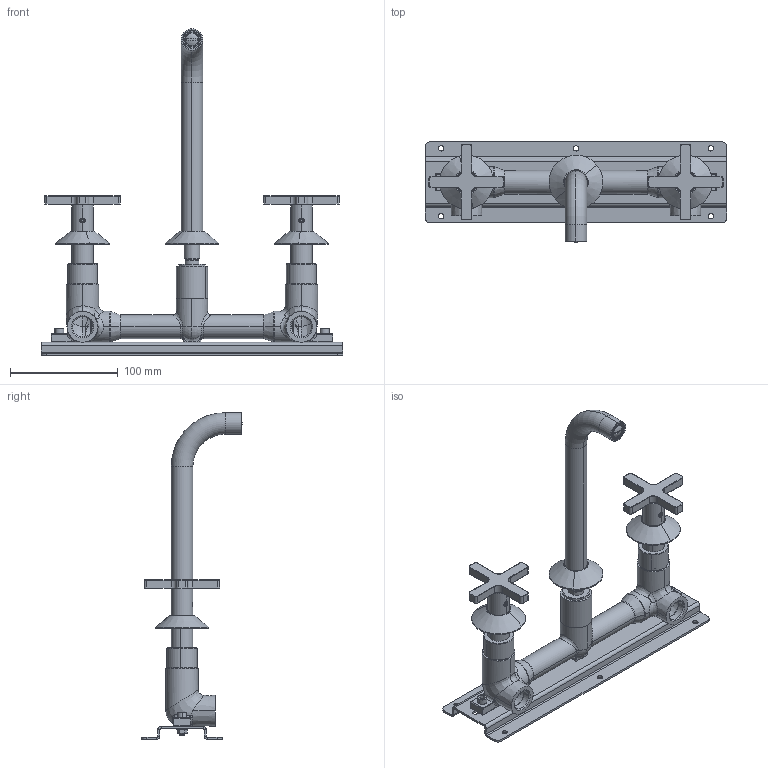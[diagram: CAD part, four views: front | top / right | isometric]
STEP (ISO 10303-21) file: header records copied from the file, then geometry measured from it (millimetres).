
FILE_DESCRIPTION (( 'STEP AP203' ), '1' );
FILE_NAME ('HGN57.STEP', '2024-03-26T08:33:13', ( '' ), ( '' ), 'SwSTEP 2.0', 'SolidWorks 2023', '' );
FILE_SCHEMA (( 'CONFIG_CONTROL_DESIGN' ));
Length unit declared in the file: millimetre
Products named in the file (26): C12.00.0020; C34.00.0018; C11.14.0003; C34.00.0017; C24.1896.00.0; ISN56; C18.27.0000; C24.1955.00.1; C21.2337.00.0; C11.14.0008; C24.2338.00.0; C24.2050.00.1; C11.12.0020; C11.11.0009; C13.00.0043; C12.00.0008; C12.00.0051; C11.15.0006; C24.1931.00.0; C11.10.0018; HGN57; AS887_00; C21.1428.00.0; C24.1894.00.0; C25.2102.00.1; C11.10.0059
Assembly tree (36 placements, depth 3):
  HGN57
    C24.1931.00.0
    C13.00.0043
    C11.14.0003
    ISN56
      C24.1955.00.1
      C34.00.0018
      C34.00.0017
      C12.00.0008
      C12.00.0051  x3
      C21.1428.00.0
      C18.27.0000
      C25.2102.00.1
      C11.10.0018  x2
      C11.12.0020  x2
      C11.11.0009  x2
    C12.00.0020  x3
    C24.1896.00.0  x2
    AS887_00  x2
      C24.2338.00.0
      C11.15.0006
      C11.10.0059
      C21.2337.00.0
      C11.14.0008
      C24.2050.00.1
    C24.1894.00.0  x3
Bounding box: 280 x 93.49 x 303 mm (x, y, z)
Volume: 297081.4 mm3; surface area: 214185.4 mm2
Topology: 40 solids, 42 shells, 1872 faces, 4375 edges, 2657 vertices
Faces by surface type: plane 649, cylinder 620, torus 241, cone 198, bspline 142, sphere 22
Entity records: 57128 total; most frequent: CARTESIAN_POINT 19413, DIRECTION 7427, ORIENTED_EDGE 7144, EDGE_CURVE 3572, AXIS2_PLACEMENT_3D 2858, VERTEX_POINT 2193, LINE 1711, VECTOR 1711
